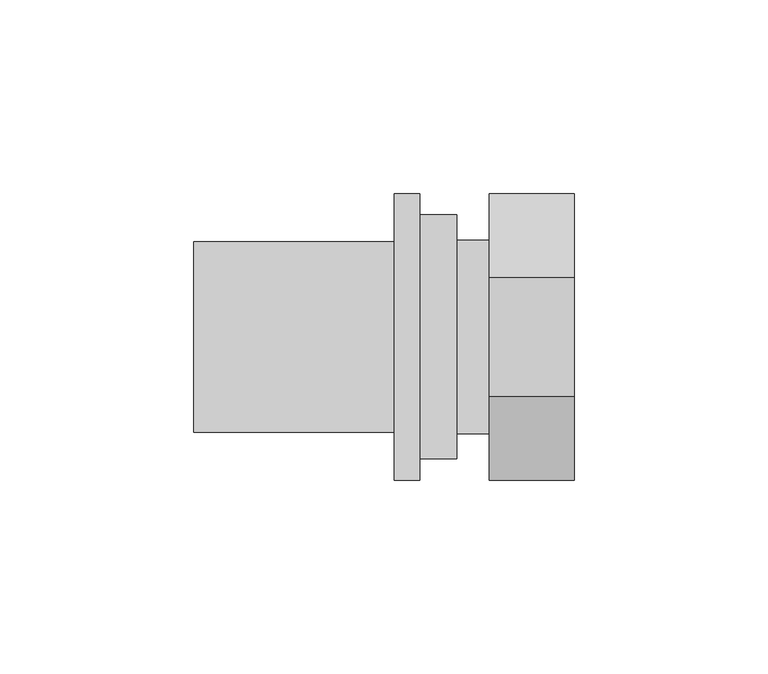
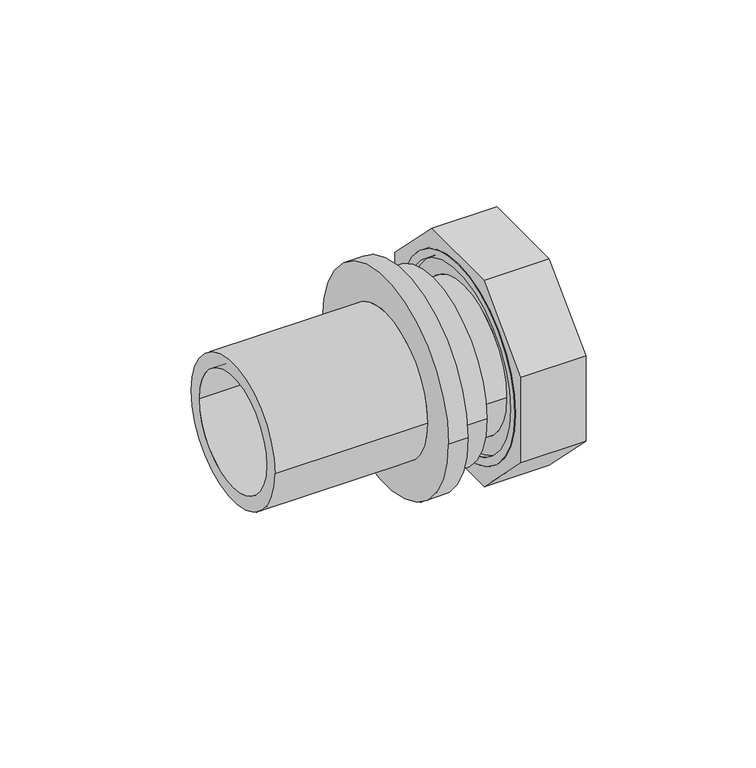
"""IFC4 building model written with IfcOpenShell, lengths in millimetres: pipe fitting geometry, REHAU_RAUTITAN_Adaptor_RX+_union nut : REHAU_RAUTITAN_Adaptor_RX+_union nut."""

from ifc_helpers import new_model, si_unit, point, frame, origin, origin_2d, place, context, project, spatial, polyline, circle_curve, trimmed, segment, composite_curve, outline, extrude, source, transform, mapped, element, save
from ifc_brep_helpers import plane_surface, cylinder_surface, revolved_surface, advanced_brep


def pipe_fitting_5cd99660(model_context):
    return source(origin(), model_context, "Body", "SolidModel", [
        advanced_brep(
        [(0.0, 31.5, 0.0), (0.0, -31.5, 0.0), (-9.6, -31.5, 0.0), (-9.6, 31.5, 0.0), (-68.0, 19.75, 0.0), (-68.0, -19.75, 0.0), (0.0, -19.75, 0.0), (0.0, 19.75, 0.0), (-16.2, 24.6, 0.0), (-16.2, -24.6, 0.0), (-68.0, -24.6, 0.0), (-68.0, 24.6, 0.0), (-9.6, 37.0, 0.0), (-9.6, -37.0, 0.0), (-16.2, -37.0, 0.0), (-16.2, 37.0, 0.0)],
        [
            (0, 1, circle_curve(frame((0.0, 0.0, 0.0), z_axis=(-1.0, 0.0, 0.0), x_axis=(0.0, -1.0, 0.0)), 31.5)),
            (1, 2),
            (2, 3, circle_curve(frame((-9.6, 0.0, 0.0), z_axis=(1.0, 0.0, 0.0), x_axis=(0.0, -1.0, 0.0)), 31.5)),
            (3, 0),
            (4, 5, circle_curve(frame((-68.0, 0.0, 0.0), z_axis=(-1.0, 0.0, 0.0), x_axis=(0.0, -1.0, 0.0)), 19.75)),
            (5, 6),
            (6, 7, circle_curve(frame((0.0, 0.0, 0.0), z_axis=(1.0, 0.0, 0.0), x_axis=(0.0, -1.0, 0.0)), 19.75)),
            (7, 4),
            (8, 9, circle_curve(frame((-16.2, 0.0, 0.0), z_axis=(-1.0, 0.0, 0.0), x_axis=(0.0, -1.0, 0.0)), 24.6)),
            (9, 10),
            (10, 11, circle_curve(frame((-68.0, 0.0, 0.0), z_axis=(1.0, 0.0, 0.0), x_axis=(0.0, -1.0, 0.0)), 24.6)),
            (11, 8),
            (12, 13, circle_curve(frame((-9.6, 0.0, 0.0), z_axis=(-1.0, 0.0, 0.0), x_axis=(0.0, -1.0, 0.0)), 37.0)),
            (13, 14),
            (14, 15, circle_curve(frame((-16.2, 0.0, 0.0), z_axis=(1.0, 0.0, 0.0), x_axis=(0.0, -1.0, 0.0)), 37.0)),
            (15, 12),
            (1, 0, circle_curve(frame((0.0, 0.0, 0.0), z_axis=(-1.0, 0.0, 0.0), x_axis=(0.0, 1.0, 0.0)), 31.5)),
            (3, 2, circle_curve(frame((-9.6, 0.0, 0.0), z_axis=(1.0, 0.0, 0.0), x_axis=(0.0, 1.0, 0.0)), 31.5)),
            (6, 7, circle_curve(frame((0.0, 0.0, 0.0), z_axis=(-1.0, 0.0, 0.0), x_axis=(0.0, 1.0, 0.0)), 19.75)),
            (5, 4, circle_curve(frame((-68.0, 0.0, 0.0), z_axis=(-1.0, 0.0, 0.0), x_axis=(0.0, 1.0, 0.0)), 19.75)),
            (10, 11, circle_curve(frame((-68.0, 0.0, 0.0), z_axis=(-1.0, 0.0, 0.0), x_axis=(0.0, 1.0, 0.0)), 24.6)),
            (9, 8, circle_curve(frame((-16.2, 0.0, 0.0), z_axis=(-1.0, 0.0, 0.0), x_axis=(0.0, 1.0, 0.0)), 24.6)),
            (14, 15, circle_curve(frame((-16.2, 0.0, 0.0), z_axis=(-1.0, 0.0, 0.0), x_axis=(0.0, 1.0, 0.0)), 37.0)),
            (13, 12, circle_curve(frame((-9.6, 0.0, 0.0), z_axis=(-1.0, 0.0, 0.0), x_axis=(0.0, 1.0, 0.0)), 37.0)),
        ],
        [
            cylinder_surface(frame((0.0, 0.0, 0.0), z_axis=(1.0, 0.0, 0.0), x_axis=(0.0, -1.0, 0.0)), 31.5),
            revolved_surface(polyline([(0.0, -19.75, 0.0), (-68.0, -19.75, 0.0)]), (0.0, 0.0, 0.0), (1.0, 0.0, 0.0)),
            cylinder_surface(frame((0.0, 0.0, 0.0), z_axis=(1.0, 0.0, 0.0), x_axis=(0.0, -1.0, 0.0)), 24.6),
            cylinder_surface(frame((0.0, 0.0, 0.0), z_axis=(1.0, 0.0, 0.0), x_axis=(0.0, -1.0, 0.0)), 37.0),
            cylinder_surface(frame((0.0, 0.0, 0.0), z_axis=(1.0, 0.0, 0.0), x_axis=(0.0, 1.0, 0.0)), 31.5),
            plane_surface(frame((0.0, 0.0, 0.0), z_axis=(1.0, 0.0, 0.0), x_axis=(0.0, 1.0, 0.0))),
            revolved_surface(polyline([(0.0, 19.75, 0.0), (-68.0, 19.75, 0.0)]), (0.0, 0.0, 0.0), (1.0, 0.0, 0.0)),
            plane_surface(frame((-68.0, 0.0, 0.0), z_axis=(-1.0, 0.0, 0.0), x_axis=(0.0, 1.0, 0.0))),
            cylinder_surface(frame((0.0, 0.0, 0.0), z_axis=(1.0, 0.0, 0.0), x_axis=(0.0, 1.0, 0.0)), 24.6),
            plane_surface(frame((-16.2, 0.0, 0.0), z_axis=(-1.0, 0.0, 0.0), x_axis=(0.0, 1.0, 0.0))),
            cylinder_surface(frame((0.0, 0.0, 0.0), z_axis=(1.0, 0.0, 0.0), x_axis=(0.0, 1.0, 0.0)), 37.0),
            plane_surface(frame((-9.6, 0.0, 0.0), z_axis=(1.0, 0.0, 0.0), x_axis=(0.0, 1.0, 0.0))),
        ],
        [
            (0, [[1, 2, 3, 4]]),
            (1, [[5, 6, 7, 8]]),
            (2, [[9, 10, 11, 12]]),
            (3, [[13, 14, 15, 16]]),
            (4, [[17, -4, 18, -2]]),
            (5, [[-17, -1], [19, -7]]),
            (6, [[20, -8, -19, -6]]),
            (7, [[21, -11], [-20, -5]]),
            (8, [[22, -12, -21, -10]]),
            (9, [[23, -15], [-22, -9]]),
            (10, [[24, -16, -23, -14]]),
            (11, [[-24, -13], [-18, -3]]),
        ],
    ),
        advanced_brep(
        [(10.4, 25.0, 0.0), (10.4, -25.0, 0.0), (0.0, -25.0, 0.0), (0.0, 25.0, 0.0), (14.0, 32.7, 0.0), (14.0, -32.7, 0.0), (10.4, -32.7, 0.0), (10.4, 32.7, 0.0), (1.4730817, 18.75, 0.0), (1.4730817, -18.75, 0.0), (14.0, -18.75, 0.0), (14.0, 18.75, 0.0), (0.0, 16.5764556, 0.0), (0.0, -16.5764556, 0.0), (1.4730817, -16.5764556, 0.0), (1.4730817, 16.5764556, 0.0)],
        [
            (0, 1, circle_curve(frame((10.4, 0.0, 0.0), z_axis=(-1.0, 0.0, 0.0), x_axis=(0.0, -1.0, 0.0)), 25.0)),
            (1, 2),
            (2, 3, circle_curve(frame((0.0, 0.0, 0.0), z_axis=(1.0, 0.0, 0.0), x_axis=(0.0, -1.0, 0.0)), 25.0)),
            (3, 0),
            (4, 5, circle_curve(frame((14.0, 0.0, 0.0), z_axis=(-1.0, 0.0, 0.0), x_axis=(0.0, -1.0, 0.0)), 32.7)),
            (5, 6),
            (6, 7, circle_curve(frame((10.4, 0.0, 0.0), z_axis=(1.0, 0.0, 0.0), x_axis=(0.0, -1.0, 0.0)), 32.7)),
            (7, 4),
            (8, 9, circle_curve(frame((1.4730817, 0.0, 0.0), z_axis=(-1.0, 0.0, 0.0), x_axis=(0.0, -1.0, 0.0)), 18.75)),
            (9, 10),
            (10, 11, circle_curve(frame((14.0, 0.0, 0.0), z_axis=(1.0, 0.0, 0.0), x_axis=(0.0, -1.0, 0.0)), 18.75)),
            (11, 8),
            (2, 3, circle_curve(frame((0.0, 0.0, 0.0), z_axis=(-1.0, 0.0, 0.0), x_axis=(0.0, 1.0, 0.0)), 25.0)),
            (12, 13, circle_curve(frame((0.0, 0.0, 0.0), z_axis=(1.0, 0.0, 0.0), x_axis=(0.0, 1.0, 0.0)), 16.5764556)),
            (13, 12, circle_curve(frame((0.0, 0.0, 0.0), z_axis=(1.0, 0.0, 0.0), x_axis=(0.0, -1.0, 0.0)), 16.5764556)),
            (1, 0, circle_curve(frame((10.4, 0.0, 0.0), z_axis=(-1.0, 0.0, 0.0), x_axis=(0.0, 1.0, 0.0)), 25.0)),
            (6, 7, circle_curve(frame((10.4, 0.0, 0.0), z_axis=(-1.0, 0.0, 0.0), x_axis=(0.0, 1.0, 0.0)), 32.7)),
            (5, 4, circle_curve(frame((14.0, 0.0, 0.0), z_axis=(-1.0, 0.0, 0.0), x_axis=(0.0, 1.0, 0.0)), 32.7)),
            (10, 11, circle_curve(frame((14.0, 0.0, 0.0), z_axis=(-1.0, 0.0, 0.0), x_axis=(0.0, 1.0, 0.0)), 18.75)),
            (9, 8, circle_curve(frame((1.4730817, 0.0, 0.0), z_axis=(-1.0, 0.0, 0.0), x_axis=(0.0, 1.0, 0.0)), 18.75)),
            (13, 14),
            (14, 15, circle_curve(frame((1.4730817, 0.0, 0.0), z_axis=(1.0, 0.0, 0.0), x_axis=(0.0, -1.0, 0.0)), 16.5764556)),
            (15, 12),
            (14, 15, circle_curve(frame((1.4730817, 0.0, 0.0), z_axis=(-1.0, 0.0, 0.0), x_axis=(0.0, 1.0, 0.0)), 16.5764556)),
        ],
        [
            cylinder_surface(frame((0.0, 0.0, 0.0), z_axis=(1.0, 0.0, 0.0), x_axis=(0.0, -1.0, 0.0)), 25.0),
            cylinder_surface(frame((0.0, 0.0, 0.0), z_axis=(1.0, 0.0, 0.0), x_axis=(0.0, -1.0, 0.0)), 32.7),
            revolved_surface(polyline([(14.0, -18.75, 0.0), (1.4730817, -18.75, 0.0)]), (0.0, 0.0, 0.0), (1.0, 0.0, 0.0)),
            plane_surface(frame((0.0, 0.0, 0.0), z_axis=(-1.0, 0.0, 0.0), x_axis=(0.0, 1.0, 0.0))),
            cylinder_surface(frame((0.0, 0.0, 0.0), z_axis=(1.0, 0.0, 0.0), x_axis=(0.0, 1.0, 0.0)), 25.0),
            plane_surface(frame((10.4, 0.0, 0.0), z_axis=(-1.0, 0.0, 0.0), x_axis=(0.0, 1.0, 0.0))),
            cylinder_surface(frame((0.0, 0.0, 0.0), z_axis=(1.0, 0.0, 0.0), x_axis=(0.0, 1.0, 0.0)), 32.7),
            plane_surface(frame((14.0, 0.0, 0.0), z_axis=(1.0, 0.0, 0.0), x_axis=(0.0, 1.0, 0.0))),
            revolved_surface(polyline([(14.0, 18.75, 0.0), (1.4730817, 18.75, 0.0)]), (0.0, 0.0, 0.0), (1.0, 0.0, 0.0)),
            revolved_surface(polyline([(1.4730817, -16.5764556, 0.0), (0.0, -16.5764556, 0.0)]), (0.0, 0.0, 0.0), (1.0, 0.0, 0.0)),
            plane_surface(frame((1.4730817, 0.0, 0.0), z_axis=(1.0, 0.0, 0.0), x_axis=(0.0, 1.0, 0.0))),
            revolved_surface(polyline([(1.4730817, 16.5764556, 0.0), (0.0, 16.5764556, 0.0)]), (0.0, 0.0, 0.0), (1.0, 0.0, 0.0)),
        ],
        [
            (0, [[1, 2, 3, 4]]),
            (1, [[5, 6, 7, 8]]),
            (2, [[9, 10, 11, 12]]),
            (3, [[13, -3], [14, 15]]),
            (4, [[16, -4, -13, -2]]),
            (5, [[17, -7], [-16, -1]]),
            (6, [[18, -8, -17, -6]]),
            (7, [[-18, -5], [19, -11]]),
            (8, [[20, -12, -19, -10]]),
            (9, [[-15, 21, 22, 23]]),
            (10, [[-20, -9], [24, -22]]),
            (11, [[-14, -23, -24, -21]]),
        ],
    ),
        advanced_brep(
        [(30.4, 33.5, 0.0), (30.4, -33.5, 0.0), (8.4, -33.5, 0.0), (8.4, 33.5, 0.0), (10.4, 32.7, 0.0), (10.4, -32.7, 0.0), (30.4, -32.7, 0.0), (30.4, 32.7, 0.0), (8.4, 30.7, 0.0), (8.4, -30.7, 0.0), (10.4, -30.7, 0.0), (10.4, 30.7, 0.0)],
        [
            (0, 1, circle_curve(frame((30.4, 0.0, 0.0), z_axis=(-1.0, 0.0, 0.0), x_axis=(0.0, -1.0, 0.0)), 33.5)),
            (1, 2),
            (2, 3, circle_curve(frame((8.4, 0.0, 0.0), z_axis=(1.0, 0.0, 0.0), x_axis=(0.0, -1.0, 0.0)), 33.5)),
            (3, 0),
            (4, 5, circle_curve(frame((10.4, 0.0, 0.0), z_axis=(-1.0, 0.0, 0.0), x_axis=(0.0, -1.0, 0.0)), 32.7)),
            (5, 6),
            (6, 7, circle_curve(frame((30.4, 0.0, 0.0), z_axis=(1.0, 0.0, 0.0), x_axis=(0.0, -1.0, 0.0)), 32.7)),
            (7, 4),
            (8, 9, circle_curve(frame((8.4, 0.0, 0.0), z_axis=(-1.0, 0.0, 0.0), x_axis=(0.0, -1.0, 0.0)), 30.7)),
            (9, 10),
            (10, 11, circle_curve(frame((10.4, 0.0, 0.0), z_axis=(1.0, 0.0, 0.0), x_axis=(0.0, -1.0, 0.0)), 30.7)),
            (11, 8),
            (1, 0, circle_curve(frame((30.4, 0.0, 0.0), z_axis=(-1.0, 0.0, 0.0), x_axis=(0.0, 1.0, 0.0)), 33.5)),
            (3, 2, circle_curve(frame((8.4, 0.0, 0.0), z_axis=(1.0, 0.0, 0.0), x_axis=(0.0, 1.0, 0.0)), 33.5)),
            (6, 7, circle_curve(frame((30.4, 0.0, 0.0), z_axis=(-1.0, 0.0, 0.0), x_axis=(0.0, 1.0, 0.0)), 32.7)),
            (5, 4, circle_curve(frame((10.4, 0.0, 0.0), z_axis=(-1.0, 0.0, 0.0), x_axis=(0.0, 1.0, 0.0)), 32.7)),
            (10, 11, circle_curve(frame((10.4, 0.0, 0.0), z_axis=(-1.0, 0.0, 0.0), x_axis=(0.0, 1.0, 0.0)), 30.7)),
            (9, 8, circle_curve(frame((8.4, 0.0, 0.0), z_axis=(-1.0, 0.0, 0.0), x_axis=(0.0, 1.0, 0.0)), 30.7)),
        ],
        [
            cylinder_surface(frame((0.0, 0.0, 0.0), z_axis=(1.0, 0.0, 0.0), x_axis=(0.0, -1.0, 0.0)), 33.5),
            revolved_surface(polyline([(30.4, -32.7, 0.0), (10.4, -32.7, 0.0)]), (0.0, 0.0, 0.0), (1.0, 0.0, 0.0)),
            revolved_surface(polyline([(10.4, -30.7, 0.0), (8.4, -30.7, 0.0)]), (0.0, 0.0, 0.0), (1.0, 0.0, 0.0)),
            cylinder_surface(frame((0.0, 0.0, 0.0), z_axis=(1.0, 0.0, 0.0), x_axis=(0.0, 1.0, 0.0)), 33.5),
            plane_surface(frame((30.4, 0.0, 0.0), z_axis=(1.0, 0.0, 0.0), x_axis=(0.0, 1.0, 0.0))),
            revolved_surface(polyline([(30.4, 32.7, 0.0), (10.4, 32.7, 0.0)]), (0.0, 0.0, 0.0), (1.0, 0.0, 0.0)),
            plane_surface(frame((10.4, 0.0, 0.0), z_axis=(1.0, 0.0, 0.0), x_axis=(0.0, 1.0, 0.0))),
            revolved_surface(polyline([(10.4, 30.7, 0.0), (8.4, 30.7, 0.0)]), (0.0, 0.0, 0.0), (1.0, 0.0, 0.0)),
            plane_surface(frame((8.4, 0.0, 0.0), z_axis=(-1.0, 0.0, 0.0), x_axis=(0.0, 1.0, 0.0))),
        ],
        [
            (0, [[1, 2, 3, 4]]),
            (1, [[5, 6, 7, 8]]),
            (2, [[9, 10, 11, 12]]),
            (3, [[13, -4, 14, -2]]),
            (4, [[-13, -1], [15, -7]]),
            (5, [[16, -8, -15, -6]]),
            (6, [[-16, -5], [17, -11]]),
            (7, [[18, -12, -17, -10]]),
            (8, [[-14, -3], [-18, -9]]),
        ],
    ),
        extrude(outline(polyline([(-15.3259018, -37.0), (-37.0, -15.3259018), (-37.0, 15.3259018), (-15.3259018, 37.0), (15.3259018, 37.0), (37.0, 15.3259018), (37.0, -15.3259018), (15.3259018, -37.0), (-15.3259018, -37.0)]), holes=[composite_curve([segment(trimmed(circle_curve(origin_2d(), 33.5), [point((-33.5, 0.0))], [point((33.5, 0.0))], True, "CARTESIAN"), True, "CONTINUOUS"), segment(trimmed(circle_curve(origin_2d(), 33.5), [point((33.5, 0.0))], [point((-33.5, 0.0))], True, "CARTESIAN"), True, "CONTINUOUS")], self_intersect=False)]), frame((8.4, 0.0, 0.0), z_axis=(1.0, 0.0, 0.0), x_axis=(0.0, 1.0, 0.0)), (0.0, 0.0, 1.0), 22.0),
    ])


if __name__ == "__main__":
    model = new_model("IFC4")
    model_context = context("Model", 3, world=origin())
    ifc_project = project(units=[si_unit("LENGTHUNIT", "METRE", prefix="MILLI")], contexts=[model_context])
    site = spatial("IfcSite", under=ifc_project)
    building = spatial("IfcBuilding", under=site)
    placement = place(None, origin())
    pipe_fitting_shape = pipe_fitting_5cd99660(model_context)
    element("IfcPipeFitting", 1, ObjectType="REHAU_RAUTITAN_Adaptor_RX+_union nut : REHAU_RAUTITAN_Adaptor_RX+_union nut", at=placement, inside=building, context=model_context, shape_type="MappedRepresentation", body=[
        mapped(pipe_fitting_shape, transform((0.0, 0.0, 0.0), x_axis=(1.0, 0.0, 0.0), y_axis=(0.0, 1.0, 0.0), z_axis=(0.0, 0.0, 1.0))),
    ])
    save(model, "model.ifc")
